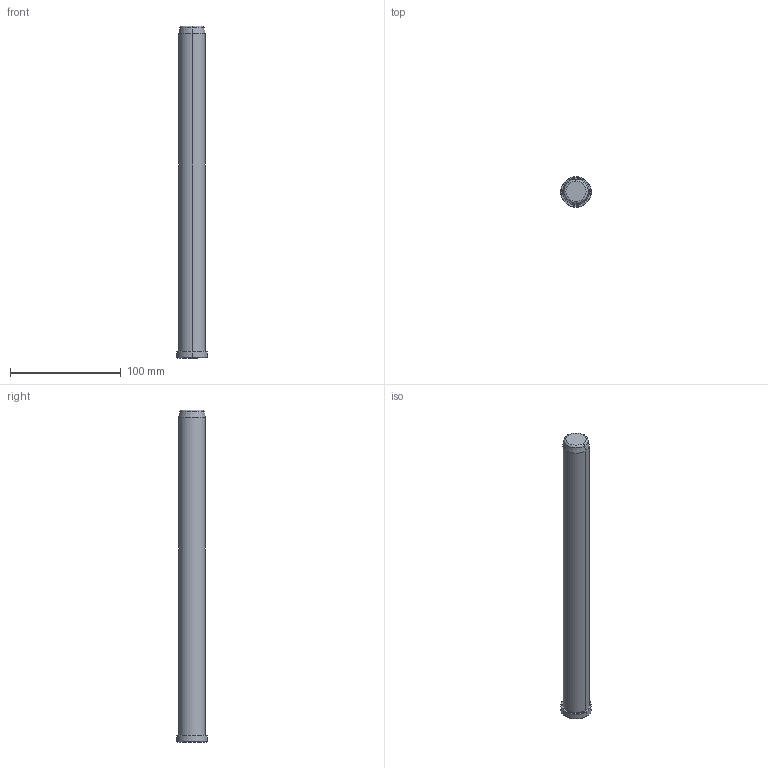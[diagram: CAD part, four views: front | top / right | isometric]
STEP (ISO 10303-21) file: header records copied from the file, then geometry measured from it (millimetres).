
FILE_DESCRIPTION((''),'2;1');
FILE_NAME('B81824300','2018-01-06T',('MANU'),(''),'PRO/ENGINEER BY PARAMETRIC TECHNOLOGY CORPORATION, 2012130','PRO/ENGINEER BY PARAMETRIC TECHNOLOGY CORPORATION, 2012130','');
FILE_SCHEMA(('CONFIG_CONTROL_DESIGN'));
Length unit declared in the file: millimetre
Products named in the file (1): B81824300
Bounding box: 28 x 28 x 300 mm (x, y, z)
Volume: 136323.6 mm3; surface area: 23727 mm2
Topology: 1 solids, 1 shells, 15 faces, 28 edges, 16 vertices
Faces by surface type: cone 6, cylinder 4, plane 3, torus 2
Entity records: 414 total; most frequent: DIRECTION 76, CARTESIAN_POINT 59, ORIENTED_EDGE 56, AXIS2_PLACEMENT_3D 33, EDGE_CURVE 28, CIRCLE 18, VERTEX_POINT 16, EDGE_LOOP 16
